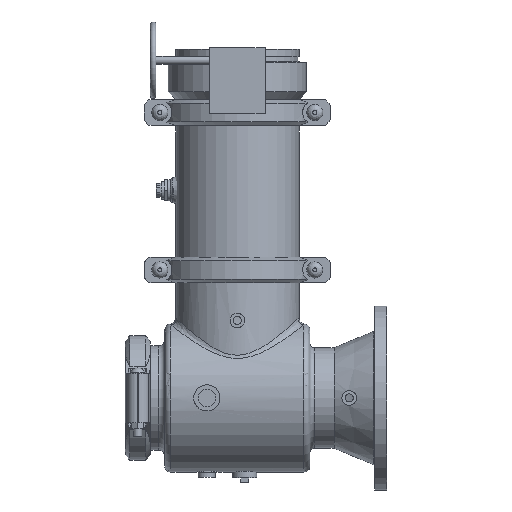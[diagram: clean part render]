
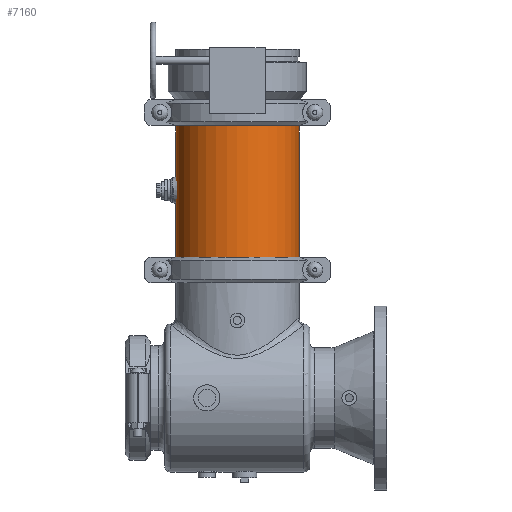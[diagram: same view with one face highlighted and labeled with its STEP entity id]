
A CAD part, top view. The second image highlights one B-rep face of the part: STEP entity #7160.
In plain terms, the highlighted cylindrical face has radius 161.925 mm (diameter 323.85 mm), a full revolution.
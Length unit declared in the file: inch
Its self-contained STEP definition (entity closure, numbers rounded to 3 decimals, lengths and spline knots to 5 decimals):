
#707=FACE_OUTER_BOUND('',#1168,.T.);
#1168=EDGE_LOOP('',(#5418,#5419,#5420,#5421,#5422,#5423));
#1645=CIRCLE('',#7974,6.375);
#1646=CIRCLE('',#7975,6.375);
#1647=CIRCLE('',#7977,6.375);
#1648=CIRCLE('',#7978,6.375);
#2068=LINE('',#12836,#2534);
#2534=VECTOR('',#9463,6.375);
#3123=VERTEX_POINT('',#12827);
#3124=VERTEX_POINT('',#12828);
#3125=VERTEX_POINT('',#12832);
#3126=VERTEX_POINT('',#12833);
#3948=EDGE_CURVE('',#3123,#3124,#1645,.T.);
#3949=EDGE_CURVE('',#3124,#3123,#1646,.T.);
#3950=EDGE_CURVE('',#3125,#3126,#1647,.T.);
#3951=EDGE_CURVE('',#3126,#3125,#1648,.T.);
#3952=EDGE_CURVE('',#3126,#3124,#2068,.T.);
#5418=ORIENTED_EDGE('',*,*,#3950,.F.);
#5419=ORIENTED_EDGE('',*,*,#3951,.F.);
#5420=ORIENTED_EDGE('',*,*,#3952,.T.);
#5421=ORIENTED_EDGE('',*,*,#3949,.T.);
#5422=ORIENTED_EDGE('',*,*,#3948,.T.);
#5423=ORIENTED_EDGE('',*,*,#3952,.F.);
#6509=CYLINDRICAL_SURFACE('',#7976,6.375);
#7160=ADVANCED_FACE('',(#707),#6509,.T.);
#7974=AXIS2_PLACEMENT_3D('',#12829,#9453,#9454);
#7975=AXIS2_PLACEMENT_3D('',#12830,#9455,#9456);
#7976=AXIS2_PLACEMENT_3D('',#12831,#9457,#9458);
#7977=AXIS2_PLACEMENT_3D('',#12834,#9459,#9460);
#7978=AXIS2_PLACEMENT_3D('',#12835,#9461,#9462);
#9453=DIRECTION('center_axis',(0.,-1.,0.));
#9454=DIRECTION('ref_axis',(1.,0.,0.));
#9455=DIRECTION('center_axis',(0.,-1.,0.));
#9456=DIRECTION('ref_axis',(1.,0.,0.));
#9457=DIRECTION('center_axis',(0.,-1.,0.));
#9458=DIRECTION('ref_axis',(1.,0.,0.));
#9459=DIRECTION('center_axis',(0.,-1.,0.));
#9460=DIRECTION('ref_axis',(1.,0.,0.));
#9461=DIRECTION('center_axis',(0.,-1.,0.));
#9462=DIRECTION('ref_axis',(1.,0.,0.));
#9463=DIRECTION('',(0.,1.,0.));
#12827=CARTESIAN_POINT('',(6.375,6.85,0.));
#12828=CARTESIAN_POINT('',(-6.375,6.85,0.));
#12829=CARTESIAN_POINT('Origin',(0.,6.85,0.));
#12830=CARTESIAN_POINT('Origin',(0.,6.85,0.));
#12831=CARTESIAN_POINT('Origin',(0.,0.,
0.));
#12832=CARTESIAN_POINT('',(6.375,-6.85,0.));
#12833=CARTESIAN_POINT('',(-6.375,-6.85,0.));
#12834=CARTESIAN_POINT('Origin',(0.,-6.85,0.));
#12835=CARTESIAN_POINT('Origin',(0.,-6.85,0.));
#12836=CARTESIAN_POINT('',(-6.375,0.,0.));
